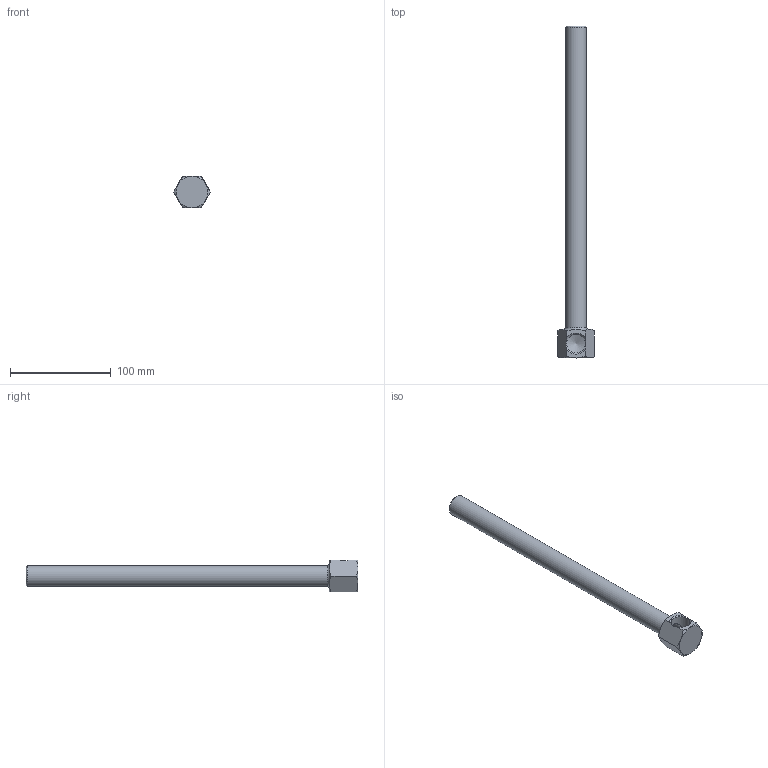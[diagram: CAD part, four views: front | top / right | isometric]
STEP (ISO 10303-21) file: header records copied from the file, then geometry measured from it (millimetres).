
FILE_DESCRIPTION(/* description */ (''),/* implementation_level */ '2;1');
FILE_NAME(/* name */ 'C:/Users/drich/Desktop/50B-13 v1.step',/* time_stamp */ '2019-12-29T15:26:44-06:00',/* author */ (''),/* organization */ (''),/* preprocessor_version */ 'ST-DEVELOPER v18',/* originating_system */ 'Autodesk Translation Framework v8.12.0.6',/* authorisation */ '');
FILE_SCHEMA (('AUTOMOTIVE_DESIGN { 1 0 10303 214 3 1 1 }'));
Length unit declared in the file: inch
Products named in the file (1): 50B-13
Bounding box: 36.66 x 330.2 x 31.75 mm (x, y, z)
Volume: 65644.1 mm3; surface area: 40001.4 mm2
Topology: 1 solids, 1 shells, 20 faces, 53 edges, 35 vertices
Faces by surface type: plane 10, cone 6, cylinder 3, torus 1
Full cylindrical faces by diameter (mm): 15.062 x1, 18.901 x1, 20.813 x1
Entity records: 687 total; most frequent: CARTESIAN_POINT 184, ORIENTED_EDGE 104, DIRECTION 91, EDGE_CURVE 52, AXIS2_PLACEMENT_3D 37, VERTEX_POINT 35, EDGE_LOOP 23, FACE_OUTER_BOUND 20
